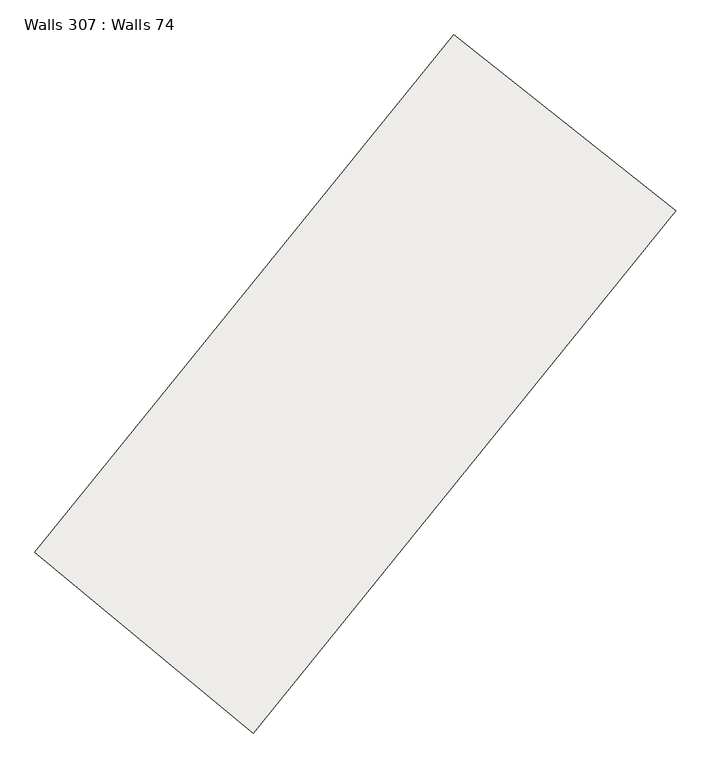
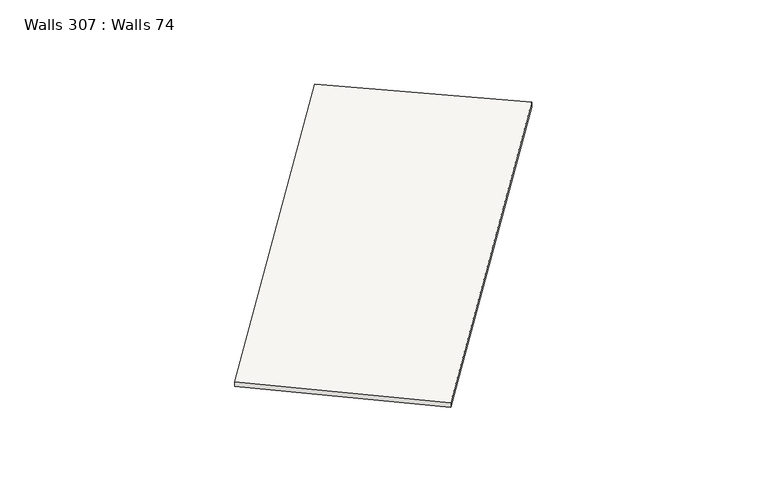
"""IFC4 building model written with IfcOpenShell, lengths in millimetres: slab geometry, Walls 307 : Walls 74."""

from ifc_helpers import new_model, si_unit, frame, origin, place, context, project, spatial, source, transform, mapped, element, save
from ifc_brep_helpers import plane_surface, spline_curve, spline_surface, advanced_brep


def walls_307_walls_74_b9606293(model_context):
    return source(origin(), model_context, "Body", "AdvancedBrep", [
        advanced_brep(
        [(57239.1273025, -93686.0827888, 638980.0), (57239.1273025, -93686.0827888, 638880.0), (60090.0058807, -96044.5762344, 638880.0), (60090.0058807, -96044.5762344, 638980.0), (62699.1273317, -86938.1047597, 639120.0), (65600.6248027, -89234.0386494, 639120.0), (65600.6248027, -89234.0386494, 639020.0), (62699.1273317, -86938.1047597, 639020.0)],
        [
            (0, 1),
            (1, 2),
            (2, 3),
            (3, 0),
            (4, 5),
            (5, 6),
            (6, 7),
            (7, 4),
            (4, 0, spline_curve(3, [(62699.1273317, -86938.1047597, 639120.0), (60903.660491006, -89207.134596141, 639073.3333335), (59083.516984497, -91456.637952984, 639026.6666665), (57239.1273025, -93686.0827888, 638980.0)], [4, 4], [0.0, 28.61464124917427])),
            (3, 5, spline_curve(3, [(60090.0058807, -96044.5762344, 638980.0), (61951.494640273, -93794.462528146, 639026.6666665), (63788.512440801, -91524.104342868, 639073.3333335), (65600.6248027, -89234.0386494, 639120.0)], [4, 4], [0.0, 28.61464124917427])),
            (7, 1, spline_curve(3, [(62699.1273317, -86938.1047597, 639020.0), (60903.660490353, -89207.134596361, 638973.333333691), (59083.516984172, -91456.637952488, 638926.666666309), (57239.1273025, -93686.0827888, 638880.0)], [4, 4], [0.0, 28.48264620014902])),
            (6, 2, spline_curve(3, [(65600.6248027, -89234.0386494, 639020.0), (63788.512440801, -91524.104342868, 638973.3333335), (61951.494640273, -93794.462528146, 638926.6666665), (60090.0058807, -96044.5762344, 638880.0)], [4, 4], [0.0, 28.614641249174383])),
        ],
        [
            plane_surface(frame((58664.5665916, -94865.3295116, 638930.0), z_axis=(-0.6374306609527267, -0.7705077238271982, 0.0), x_axis=(0.7705077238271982, -0.6374306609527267, 0.0))),
            plane_surface(frame((64149.8760672, -88086.0717045, 639070.0), z_axis=(0.620522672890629, 0.784188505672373, 0.0), x_axis=(0.0, 0.0, -1.0))),
            spline_surface(3, 3, [[(65600.6248027, -89234.0386494, 639120.0), (63788.512441, -91524.104342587, 639073.333333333), (61951.494639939, -93794.462528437, 639026.666666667), (60090.0058807, -96044.5762344, 638980.0)], [(64633.458979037, -88468.727352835, 639120.0), (62826.895124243, -90751.781093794, 639073.333333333), (60995.502088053, -93015.187669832, 639026.666666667), (59139.713021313, -95258.411752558, 638980.0)], [(63666.293155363, -87703.416056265, 639120.0), (61865.277807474, -89979.457844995, 639073.333333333), (60039.509536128, -92235.912811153, 639026.666666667), (58189.420161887, -94472.247270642, 638980.0)], [(62699.1273317, -86938.1047597, 639120.0), (60903.660490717, -89207.134596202, 639073.333333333), (59083.516984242, -91456.637952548, 639026.666666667), (57239.1273025, -93686.0827888, 638980.0)]], [4, 4], [4, 4], [0.0, 12.1391076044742], [0.0, 28.61464124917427]),
            spline_surface(3, 3, [[(62699.1273317, -86938.1047597, 639120.0), (60903.660490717, -89207.134596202, 639073.333333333), (59083.516984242, -91456.637952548, 639026.666666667), (57239.1273025, -93686.0827888, 638980.0)], [(62699.1273317, -86938.1047597, 639086.666666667), (60903.660490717, -89207.134596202, 639040.0), (59083.516984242, -91456.637952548, 638993.333333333), (57239.1273025, -93686.0827888, 638946.666666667)], [(62699.1273317, -86938.1047597, 639053.333333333), (60903.660490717, -89207.134596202, 639006.666666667), (59083.516984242, -91456.637952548, 638960.0), (57239.1273025, -93686.0827888, 638913.333333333)], [(62699.1273317, -86938.1047597, 639020.0), (60903.660490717, -89207.134596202, 638973.333333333), (59083.516984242, -91456.637952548, 638926.666666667), (57239.1273025, -93686.0827888, 638880.0)]], [4, 4], [4, 4], [0.0, 0.3280839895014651], [0.0, 28.48264620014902]),
            spline_surface(3, 3, [[(62699.1273317, -86938.1047597, 639020.0), (60903.660490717, -89207.134596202, 638973.333333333), (59083.516984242, -91456.637952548, 638926.666666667), (57239.1273025, -93686.0827888, 638880.0)], [(63666.293155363, -87703.416056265, 639020.0), (61865.277807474, -89979.457844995, 638973.333333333), (60039.509536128, -92235.912811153, 638926.666666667), (58189.420161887, -94472.247270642, 638880.0)], [(64633.458979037, -88468.727352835, 639020.0), (62826.895124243, -90751.781093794, 638973.333333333), (60995.502088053, -93015.187669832, 638926.666666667), (59139.713021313, -95258.411752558, 638880.0)], [(65600.6248027, -89234.0386494, 639020.0), (63788.512441, -91524.104342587, 638973.333333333), (61951.494639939, -93794.462528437, 638926.666666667), (60090.0058807, -96044.5762344, 638880.0)]], [4, 4], [4, 4], [0.0, 12.139107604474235], [0.0, 28.614641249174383]),
            spline_surface(3, 3, [[(65600.6248027, -89234.0386494, 639020.0), (63788.512441, -91524.104342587, 638973.333333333), (61951.494639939, -93794.462528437, 638926.666666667), (60090.0058807, -96044.5762344, 638880.0)], [(65600.6248027, -89234.0386494, 639053.333333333), (63788.512441, -91524.104342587, 639006.666666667), (61951.494639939, -93794.462528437, 638960.0), (60090.0058807, -96044.5762344, 638913.333333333)], [(65600.6248027, -89234.0386494, 639086.666666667), (63788.512441, -91524.104342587, 639040.0), (61951.494639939, -93794.462528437, 638993.333333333), (60090.0058807, -96044.5762344, 638946.666666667)], [(65600.6248027, -89234.0386494, 639120.0), (63788.512441, -91524.104342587, 639073.333333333), (61951.494639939, -93794.462528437, 639026.666666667), (60090.0058807, -96044.5762344, 638980.0)]], [4, 4], [4, 4], [0.0, 0.3280839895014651], [0.0, 28.746636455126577]),
        ],
        [
            (0, [[1, 2, 3, 4]]),
            (1, [[5, 6, 7, 8]]),
            (2, [[-5, 9, -4, 10]]),
            (3, [[-8, 11, -1, -9]]),
            (4, [[-7, 12, -2, -11]]),
            (5, [[-6, -10, -3, -12]]),
        ],
    ),
    ])


if __name__ == "__main__":
    model = new_model("IFC4")
    model_context = context("Model", 3, world=origin())
    ifc_project = project(units=[si_unit("LENGTHUNIT", "METRE", prefix="MILLI")], contexts=[model_context])
    site = spatial("IfcSite", under=ifc_project)
    building = spatial("IfcBuilding", under=site)
    placement = place(None, origin())
    walls_307_walls_74_shape = walls_307_walls_74_b9606293(model_context)
    element("IfcSlab", 1, ObjectType="Walls 307 : Walls 74", at=placement, inside=building, context=model_context, shape_type="MappedRepresentation", body=[
        mapped(walls_307_walls_74_shape, transform((0.0, 0.0, 0.0), x_axis=(1.0, 0.0, 0.0), y_axis=(0.0, 1.0, 0.0), z_axis=(0.0, 0.0, 1.0))),
    ])
    save(model, "model.ifc")
